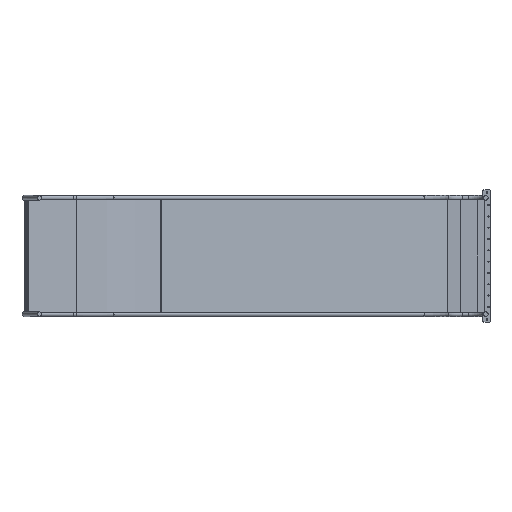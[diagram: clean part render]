
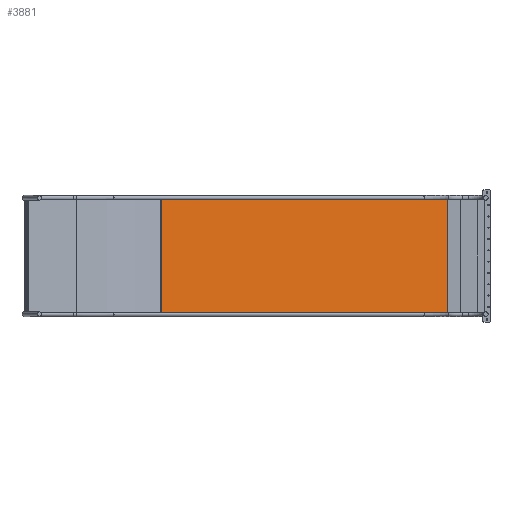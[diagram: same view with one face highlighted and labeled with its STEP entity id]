
A CAD part, left-side view. The second image highlights one B-rep face of the part: STEP entity #3881.
In plain terms, the highlighted planar face has unit normal (-0.788, -0.616, 0) as drawn and (0, -1, 0) by its records, which use the part's own axes.
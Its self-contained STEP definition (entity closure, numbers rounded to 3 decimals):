
#472=FACE_OUTER_BOUND('',#708,.T.);
#708=EDGE_LOOP('',(#2655,#2656,#2657,#2658,#2659,#2660,#2661,#2662));
#982=LINE('',#6033,#1338);
#984=LINE('',#6045,#1340);
#994=LINE('',#6259,#1350);
#995=LINE('',#6261,#1351);
#996=LINE('',#6263,#1352);
#997=LINE('',#6265,#1353);
#998=LINE('',#6267,#1354);
#999=LINE('',#6268,#1355);
#1338=VECTOR('',#4791,10.);
#1340=VECTOR('',#4795,10.);
#1350=VECTOR('',#4815,10.);
#1351=VECTOR('',#4816,10.);
#1352=VECTOR('',#4817,10.);
#1353=VECTOR('',#4818,10.);
#1354=VECTOR('',#4819,10.);
#1355=VECTOR('',#4820,10.);
#1683=VERTEX_POINT('',#6010);
#1688=VERTEX_POINT('',#6020);
#1695=VERTEX_POINT('',#6044);
#1704=VERTEX_POINT('',#6258);
#1705=VERTEX_POINT('',#6260);
#1706=VERTEX_POINT('',#6262);
#1707=VERTEX_POINT('',#6264);
#1708=VERTEX_POINT('',#6266);
#2050=EDGE_CURVE('',#1688,#1683,#982,.T.);
#2053=EDGE_CURVE('',#1683,#1695,#984,.T.);
#2066=EDGE_CURVE('',#1688,#1704,#994,.T.);
#2067=EDGE_CURVE('',#1704,#1705,#995,.T.);
#2068=EDGE_CURVE('',#1705,#1706,#996,.T.);
#2069=EDGE_CURVE('',#1706,#1707,#997,.T.);
#2070=EDGE_CURVE('',#1708,#1707,#998,.T.);
#2071=EDGE_CURVE('',#1695,#1708,#999,.T.);
#2655=ORIENTED_EDGE('',*,*,#2053,.F.);
#2656=ORIENTED_EDGE('',*,*,#2050,.F.);
#2657=ORIENTED_EDGE('',*,*,#2066,.T.);
#2658=ORIENTED_EDGE('',*,*,#2067,.T.);
#2659=ORIENTED_EDGE('',*,*,#2068,.T.);
#2660=ORIENTED_EDGE('',*,*,#2069,.T.);
#2661=ORIENTED_EDGE('',*,*,#2070,.F.);
#2662=ORIENTED_EDGE('',*,*,#2071,.F.);
#3748=PLANE('',#4319);
#3881=ADVANCED_FACE('',(#472),#3748,.F.);
#4319=AXIS2_PLACEMENT_3D('',#6257,#4813,#4814);
#4791=DIRECTION('',(0.,0.,1.));
#4795=DIRECTION('',(1.,0.,0.));
#4813=DIRECTION('center_axis',(0.,1.,0.));
#4814=DIRECTION('ref_axis',(0.,0.,1.));
#4815=DIRECTION('',(1.,0.,0.));
#4816=DIRECTION('',(0.,0.,1.));
#4817=DIRECTION('',(1.,0.,0.));
#4818=DIRECTION('',(0.,0.,1.));
#4819=DIRECTION('',(1.,0.,0.));
#4820=DIRECTION('',(0.,0.,-1.));
#6010=CARTESIAN_POINT('',(-3084.964,0.,-116.524));
#6020=CARTESIAN_POINT('',(-3084.964,0.,-1040.053));
#6033=CARTESIAN_POINT('',(-3084.964,0.,-222.38));
#6044=CARTESIAN_POINT('',(-98.919,0.,-116.524));
#6045=CARTESIAN_POINT('',(-456.675,0.,-116.524));
#6257=CARTESIAN_POINT('Origin',(-206.675,0.,-328.236));
#6258=CARTESIAN_POINT('',(-98.919,0.,-1040.053));
#6259=CARTESIAN_POINT('',(-355.82,0.,-1040.053));
#6260=CARTESIAN_POINT('',(-98.919,0.,-1039.053));
#6261=CARTESIAN_POINT('',(-98.919,0.,-685.144));
#6262=CARTESIAN_POINT('',(-97.342,0.,-1039.053));
#6263=CARTESIAN_POINT('',(-152.797,0.,-1039.053));
#6264=CARTESIAN_POINT('',(-97.342,0.,-118.236));
#6265=CARTESIAN_POINT('',(-97.342,0.,-223.236));
#6266=CARTESIAN_POINT('',(-98.919,0.,-118.236));
#6267=CARTESIAN_POINT('',(-98.919,0.,-118.236));
#6268=CARTESIAN_POINT('',(-98.919,0.,-113.712));
